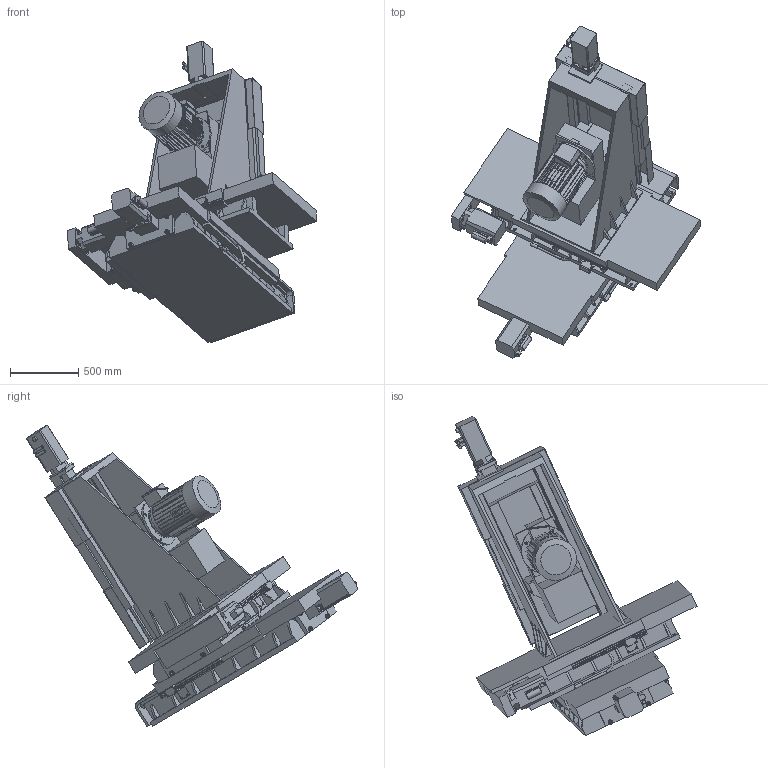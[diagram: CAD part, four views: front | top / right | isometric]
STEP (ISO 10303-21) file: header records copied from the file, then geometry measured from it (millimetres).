
FILE_DESCRIPTION((''),'2;1');
FILE_NAME('C:\VaultWork\Zeichnungen\Maßblätter\3-achsiges Fräsaggregat\3-achsiges Fräsaggregat Typ BF5b -H630-me-400-EE - H630-me-400-EE - H720-me-400-EE\BF01396-0-0 Maßblatt 3-achsiges Fräsaggregat Typ BF5b -H630-me-400-EE - H630-me-400-EE - H720-me-400-EE.stp','2009-05-07T09:34:14',('Test'),(''),'Autodesk Inventor 2008','Autodesk Inventor 2008','');
FILE_SCHEMA(('AUTOMOTIVE_DESIGN { 1 0 10303 214 1 1 1 1 }'));
Length unit declared in the file: millimetre
Products named in the file (1): BF01396-0-0 Maßblatt 3-achsiges Fräsaggregat Typ BF5b -H630-me-400-EE - H630-me-400-EE - H720-me-400-EE
Bounding box: 1827.62 x 2432.99 x 2214.81 mm (x, y, z)
Volume: 527525839.2 mm3; surface area: 21065945.3 mm2
Topology: 21 solids, 21 shells, 1954 faces, 5409 edges, 3530 vertices
Faces by surface type: plane 1561, cylinder 220, bspline 70, cone 58, torus 41, sphere 4
Full cylindrical faces by diameter (mm): 3.8 x4, 4 x4, 4.917 x4, 5.9 x4, 6 x8, 6.6 x4, 9.98 x4, 10 x16, 16 x6, 17 x2, 18.5 x4, 20 x11, 25 x4, 30 x6, 45 x1, 110 x1, 122 x1, 128 x1, 128.5 x1, 134 x1, 135 x1, 228 x1, 238 x1, 263 x1, 264 x1, 309.4 x1, 350 x1
Entity records: 63817 total; most frequent: CARTESIAN_POINT 13289, ORIENTED_EDGE 10174, DIRECTION 9423, EDGE_CURVE 5087, VECTOR 4129, LINE 4129, VERTEX_POINT 3427, AXIS2_PLACEMENT_3D 2647
